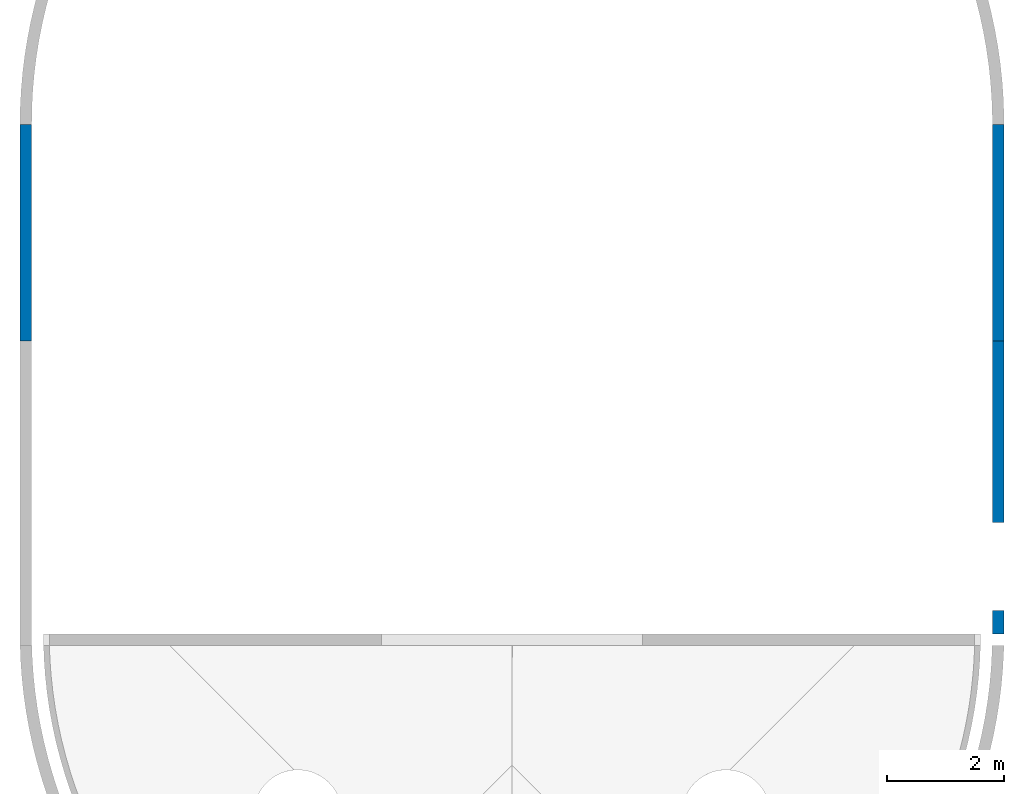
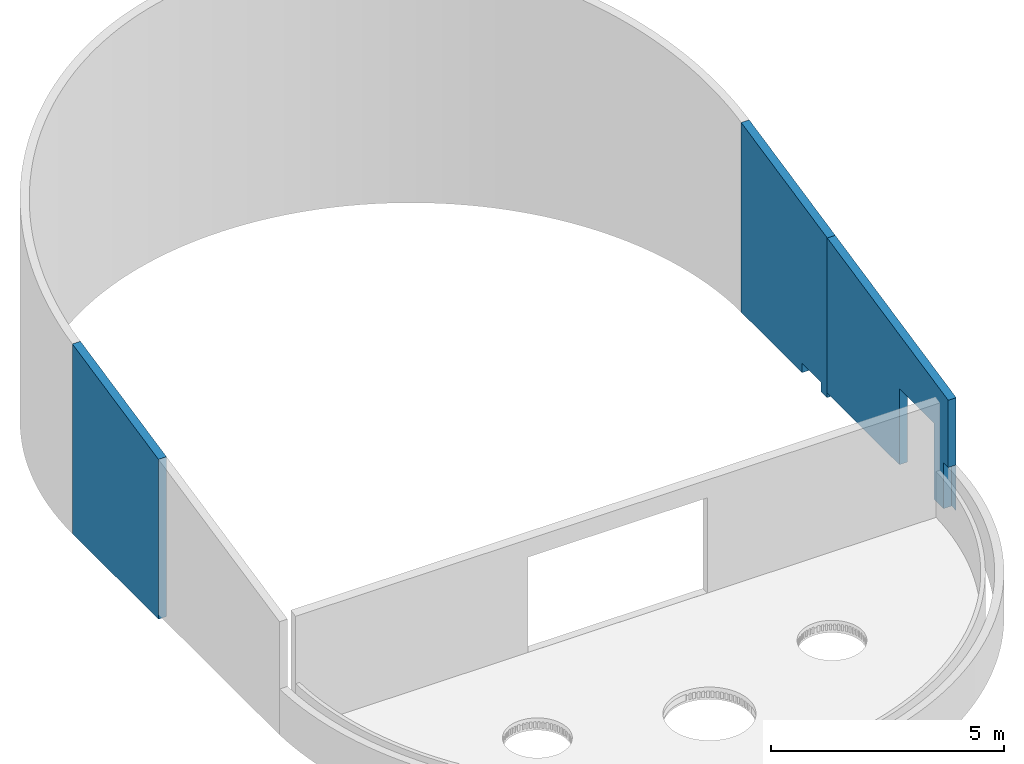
# One storey, part 9 of 10: 3 walls, 2 openings.
"""IFC4 building model written with IfcOpenShell, lengths in millimetres."""

from ifc_helpers import new_model, entity, si_unit, converted_unit, derived_unit, direction, frame, origin_with_axes, place, context, subcontext, project, spatial, polygons, material, constituent, constituent_set, type_object, element, save


model = new_model("IFC4")

# Units and contexts
model_context = context("Model", 3, precision=0.01, world=origin_with_axes(), true_north=direction((0.0, 1.0)))
body_context = subcontext(model_context, "Body", "Model", "MODEL_VIEW")
ifc_project = project(units=[si_unit("LENGTHUNIT", "METRE", prefix="MILLI"), si_unit("AREAUNIT", "SQUARE_METRE"), si_unit("VOLUMEUNIT", "CUBIC_METRE"), converted_unit("PLANEANGLEUNIT", "DEGREE", entity("IfcPlaneAngleMeasure", 0.0174532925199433), si_unit("PLANEANGLEUNIT", "RADIAN"), dimensions=[0, 0, 0, 0, 0, 0, 0]), converted_unit("TIMEUNIT", "Year", entity("IfcTimeMeasure", 31557600.0), si_unit("TIMEUNIT", "SECOND"), dimensions=[0, 0, 1, 0, 0, 0, 0]), si_unit("MASSUNIT", "GRAM", prefix="KILO"), si_unit("THERMODYNAMICTEMPERATUREUNIT", "DEGREE_CELSIUS"), si_unit("LUMINOUSINTENSITYUNIT", "LUMEN"), si_unit("ENERGYUNIT", "JOULE", prefix="MEGA"), derived_unit("THERMALCONDUCTANCEUNIT", [(si_unit("POWERUNIT", "WATT"), 1), (si_unit("LENGTHUNIT", "METRE"), -1), (si_unit("THERMODYNAMICTEMPERATUREUNIT", "KELVIN"), -1)]), derived_unit("SPECIFICHEATCAPACITYUNIT", [(si_unit("ENERGYUNIT", "JOULE"), 1), (si_unit("MASSUNIT", "GRAM", prefix="KILO"), -1), (si_unit("THERMODYNAMICTEMPERATUREUNIT", "KELVIN"), -1)]), derived_unit("MASSDENSITYUNIT", [(si_unit("MASSUNIT", "GRAM", prefix="KILO"), 1), (si_unit("VOLUMEUNIT", "CUBIC_METRE"), -1)])], contexts=[model_context])

# Site, building, storey
site_placement = place(None, origin_with_axes())
site = spatial("IfcSite", under=ifc_project, at=site_placement, Name="Exteriér", CompositionType="ELEMENT")
building_placement = place(site_placement, origin_with_axes())
building = spatial("IfcBuilding", under=site, at=building_placement, Name="Univerzitní lezecké centrum", CompositionType="ELEMENT")
storey_placement = place(building_placement, frame((0.0, 0.0, 9600.000000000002), z_axis=(0.0, 0.0, 1.0), x_axis=(1.0, 0.0, 0.0)))
storey = spatial("IfcBuildingStorey", under=building, at=storey_placement, Name="4.NP", CompositionType="ELEMENT", Elevation=9600.0)

# Wall, opening
ifc_material = material(Name="Tepelná izolace - minerální vata - obvodová izolace")
ifc_constituent_1 = constituent(ifc_material, Name="Tepelná izolace - minerální vata - obvodová izolace")
ifc_constituent_set_1 = constituent_set(constituents=[ifc_constituent_1], Name="Obvodová tepelná izolace")
wall_type = type_object("IfcWallType", Name="Obvodová tepelná izolace 200", PredefinedType="NOTDEFINED")
wall_1_placement = place(storey_placement, frame((10649.85164885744, 4699.999999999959, 0.0), z_axis=(0.0, 0.0, 1.0), x_axis=(0.0, -1.0, 0.0)))
wall_1 = element("IfcWall", 1, at=wall_1_placement, inside=storey, type_object=wall_type, material=ifc_constituent_set_1, Name="St01", PredefinedType="NOTDEFINED", context=body_context, shape_type="Tessellation", body=[
    polygons([(4599.999999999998, 199.9999999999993, 0.0), (4599.999999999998, 199.9999999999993, 2000.0), (3099.999999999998, 199.9999999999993, 2000.0), (3099.999999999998, 199.9999999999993, 0.0), (0.0, 199.9999999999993, 0.0), (0.0, 199.999974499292, 4071.671158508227), (5200.000000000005, 200.0000074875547, 2966.37703782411), (5200.000000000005, 199.9999999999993, 1199.999999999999), (5200.000000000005, 199.9999999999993, 0.0), (5000.000000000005, 199.9999999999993, 0.0), (4599.999999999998, 0.0, 0.0), (4599.999999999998, 0.0, 2000.0), (3099.999999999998, 0.0, 2000.0), (3099.999999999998, 0.0, 0.0), (0.0, 0.0, 0.0), (0.0, 0.0, 4071.671158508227), (5200.000000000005, 0.0, 2966.377037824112), (5200.000000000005, 0.0, 1199.999999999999), (5200.000000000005, 197.3671777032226, 1199.999999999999), (5200.000000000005, 197.3671777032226, 0.0), (5000.000000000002, 0.0, 0.0), (5000.000000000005, 0.0, 1199.999999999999), (5000.000000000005, 199.9999999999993, 1199.999999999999)], [[[1, 2, 3, 4, 5, 6, 7, 8, 9, 10]], [[2, 1, 11, 12]], [[3, 2, 12, 13]], [[4, 3, 13, 14]], [[4, 14, 15, 5]], [[16, 6, 5, 15]], [[6, 16, 17, 7]], [[8, 7, 17, 18, 19]], [[20, 9, 8, 19]], [[20, 10, 9]], [[11, 1, 10, 21]], [[12, 11, 21, 22, 18, 17, 16, 15, 14, 13]], [[18, 22, 23, 19]], [[20, 19, 23, 10]], [[10, 23, 22, 21]]], closed=True),
])
opening_1_placement = place(wall_1_placement, frame((3849.999999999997, 0.0, 0.0), z_axis=(0.0, 0.0, 1.0), x_axis=(1.0, 0.0, 0.0)))
element("IfcOpeningElement", 2, at=opening_1_placement, cuts=wall_1, context=body_context, identifier="Reference", shape_type="Tessellation", body=[
    polygons([(750.0, 200.9999999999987, 2000.0), (750.0, 200.9999999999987, 0.0), (-750.0, 200.9999999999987, 0.0), (-750.0, 201.0000000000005, 2000.0), (750.0, -1.000000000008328, 2000.0), (750.0, -1.000000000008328, 0.0), (-750.0, -1.000000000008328, 0.0), (-750.0, -1.000000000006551, 2000.0)], [[[1, 2, 3, 4]], [[5, 6, 2, 1]], [[6, 7, 3, 2]], [[7, 8, 4, 3]], [[8, 5, 1, 4]], [[7, 6, 5, 8]]], closed=True),
])

# Wall
ifc_constituent_2 = constituent(ifc_material, Name="Tepelná izolace - minerální vata - obvodová izolace")
ifc_constituent_set_2 = constituent_set(constituents=[ifc_constituent_2], Name="Obvodová tepelná izolace")
wall_2_placement = place(storey_placement, frame((-5750.148351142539, 8400.000000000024, -120.000000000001), z_axis=(0.0, 0.0, 1.0), x_axis=(0.0, -1.0, 0.0)))
element("IfcWall", 3, at=wall_2_placement, inside=storey, type_object=wall_type, material=ifc_constituent_set_2, Name="St01", PredefinedType="NOTDEFINED", context=body_context, shape_type="Tessellation", body=[
    polygons([(0.0, -199.9999999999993, 4978.130436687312), (0.0, 0.0, 4978.130436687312), (0.0, 0.0, 0.0), (0.0, -200.0000000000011, 0.0), (0.6363404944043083, -199.9999847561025, 4977.995178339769), (3700.000000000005, -199.9999847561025, 4191.671158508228), (3700.000000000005, 0.0, 4191.671158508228), (3700.000000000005, 0.0, 0.0), (3700.000000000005, -200.0000000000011, 0.0)], [[[1, 2, 3, 4]], [[2, 1, 5, 6, 7]], [[2, 7, 8, 3]], [[3, 8, 9, 4]], [[5, 1, 4, 9, 6]], [[7, 6, 9, 8]]], closed=True),
])

# Wall, opening
ifc_constituent_3 = constituent(ifc_material, Name="Tepelná izolace - minerální vata - obvodová izolace")
ifc_constituent_set_3 = constituent_set(constituents=[ifc_constituent_3], Name="Obvodová tepelná izolace")
wall_3_placement = place(storey_placement, frame((10649.85164885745, 8399.999999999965, -120.000000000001), z_axis=(0.0, 0.0, 1.0), x_axis=(0.0, -1.0, 0.0)))
wall_3 = element("IfcWall", 4, at=wall_3_placement, inside=storey, type_object=wall_type, material=ifc_constituent_set_3, Name="St01", PredefinedType="NOTDEFINED", context=body_context, shape_type="Tessellation", body=[
    polygons([(3429.669165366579, 199.9999999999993, 0.0), (3429.669165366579, 199.9999510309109, 245.8258195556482), (2619.196412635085, 199.9999510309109, 245.8258195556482), (2619.196412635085, 199.9999999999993, 0.0), (0.0, 199.9999999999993, 0.0), (0.0, 200.0000000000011, 4978.130436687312), (0.6363404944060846, 199.9999510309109, 4977.995178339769), (3700.000000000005, 199.999974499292, 4191.671158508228), (3700.000000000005, 199.9999999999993, 0.0), (3429.669165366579, 0.0, 0.0), (3429.669165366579, 0.0, 245.8258195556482), (2619.196412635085, 0.0, 245.8258195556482), (2619.196412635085, 0.0, 0.0), (0.0, 0.0, 0.0), (0.0, 0.0, 4978.130436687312), (3700.000000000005, 0.0, 4191.671158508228), (3700.000000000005, 0.0, 0.0)], [[[1, 2, 3, 4, 5, 6, 7, 8, 9]], [[2, 1, 10, 11]], [[3, 2, 11, 12]], [[4, 3, 12, 13]], [[4, 13, 14, 5]], [[14, 15, 6, 5]], [[7, 6, 15, 16, 8]], [[9, 8, 16, 17]], [[10, 1, 9, 17]], [[11, 10, 17, 16, 15, 14, 13, 12]]], closed=True),
])
opening_2_placement = place(wall_3_placement, frame((8399.999999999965, -10649.85164885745, -9480.0), z_axis=(0.0, 0.0, 1.0), x_axis=(0.0, 1.0, 0.0)))
element("IfcOpeningElement", 5, at=opening_2_placement, cuts=wall_3, Name="Pr04", PredefinedType="NOTDEFINED", context=body_context, identifier="Reference", shape_type="Tessellation", body=[
    polygons([(10449.85164885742, 5780.803587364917, 9480.0), (10449.85164885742, 5780.803587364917, 9725.825819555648), (11049.85164885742, 5780.803587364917, 9725.825819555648), (11049.85164885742, 5780.803587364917, 9480.0), (10449.85164885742, 4970.330834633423, 9480.0), (10449.85164885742, 4970.330834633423, 9725.825819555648), (11049.85164885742, 4970.330834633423, 9725.825819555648), (11049.85164885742, 4970.330834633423, 9480.0)], [[[1, 2, 3, 4]], [[1, 5, 6, 2]], [[2, 6, 7, 3]], [[4, 3, 7, 8]], [[5, 1, 4, 8]], [[6, 5, 8, 7]]], closed=True),
])

save(model, "model.ifc")
